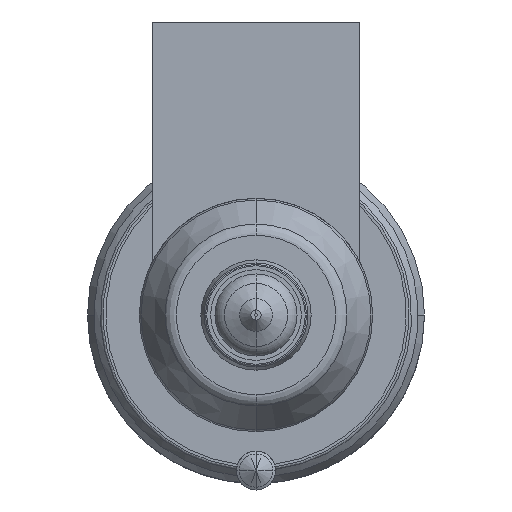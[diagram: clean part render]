
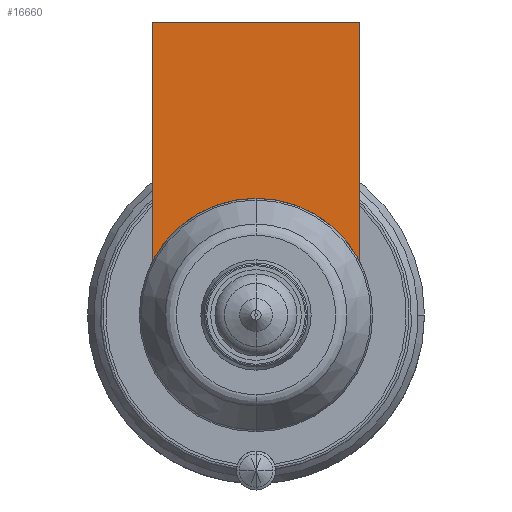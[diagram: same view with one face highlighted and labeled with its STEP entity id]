
A CAD part, front view. The second image highlights one B-rep face of the part: STEP entity #16660.
In plain terms, the highlighted planar face has unit normal (0, -1, 0).
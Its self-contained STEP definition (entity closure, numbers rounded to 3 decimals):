
#15244=DIRECTION('',(0.,0.,-1.));
#15245=VECTOR('',#15244,18.481);
#15246=CARTESIAN_POINT('',(-8.,-54.,22.604));
#15247=LINE('',#15246,#15245);
#15842=CARTESIAN_POINT('',(0.,-54.,0.));
#15843=DIRECTION('',(0.,-1.,0.));
#15844=DIRECTION('',(0.,0.,1.));
#15845=AXIS2_PLACEMENT_3D('',#15842,#15843,#15844);
#15850=DIRECTION('',(1.,0.,0.));
#15851=VECTOR('',#15850,16.);
#15852=CARTESIAN_POINT('',(-8.,-54.,22.604));
#15853=LINE('',#15852,#15851);
#15857=CARTESIAN_POINT('',(0.,-54.,0.));
#15858=DIRECTION('',(0.,-1.,0.));
#15859=DIRECTION('',(0.889,0.,0.458));
#15860=AXIS2_PLACEMENT_3D('',#15857,#15858,#15859);
#15941=DIRECTION('',(0.,0.,-1.));
#15942=VECTOR('',#15941,18.481);
#15943=CARTESIAN_POINT('',(8.,-54.,22.604));
#15944=LINE('',#15943,#15942);
#16046=CARTESIAN_POINT('',(-8.,-54.,22.604));
#16047=VERTEX_POINT('',#16046);
#16052=CARTESIAN_POINT('',(8.,-54.,22.604));
#16053=VERTEX_POINT('',#16052);
#16055=CARTESIAN_POINT('',(-8.,-54.,4.123));
#16057=VERTEX_POINT('',#16055);
#16059=CARTESIAN_POINT('',(8.,-54.,4.123));
#16061=VERTEX_POINT('',#16059);
#16062=CARTESIAN_POINT('',(0.,-54.,9.));
#16063=VERTEX_POINT('',#16062);
#16646=CARTESIAN_POINT('',(-8.,-54.,22.604));
#16647=DIRECTION('',(0.,-1.,0.));
#16648=DIRECTION('',(0.,0.,-1.));
#16649=AXIS2_PLACEMENT_3D('',#16646,#16647,#16648);
#16650=PLANE('',#16649);
#16651=ORIENTED_EDGE('',*,*,#16103,.T.);
#16652=ORIENTED_EDGE('',*,*,#16086,.F.);
#16654=ORIENTED_EDGE('',*,*,#16653,.T.);
#16656=ORIENTED_EDGE('',*,*,#16655,.T.);
#16657=ORIENTED_EDGE('',*,*,#16151,.T.);
#16658=EDGE_LOOP('',(#16651,#16652,#16654,#16656,#16657));
#16659=FACE_OUTER_BOUND('',#16658,.F.);
#16660=ADVANCED_FACE('',(#16659),#16650,.T.);
#15846=CIRCLE('',#15845,9.);
#15861=CIRCLE('',#15860,9.);
#16086=EDGE_CURVE('',#16047,#16057,#15247,.T.);
#16103=EDGE_CURVE('',#16063,#16057,#15846,.T.);
#16151=EDGE_CURVE('',#16061,#16063,#15861,.T.);
#16653=EDGE_CURVE('',#16047,#16053,#15853,.T.);
#16655=EDGE_CURVE('',#16053,#16061,#15944,.T.);
